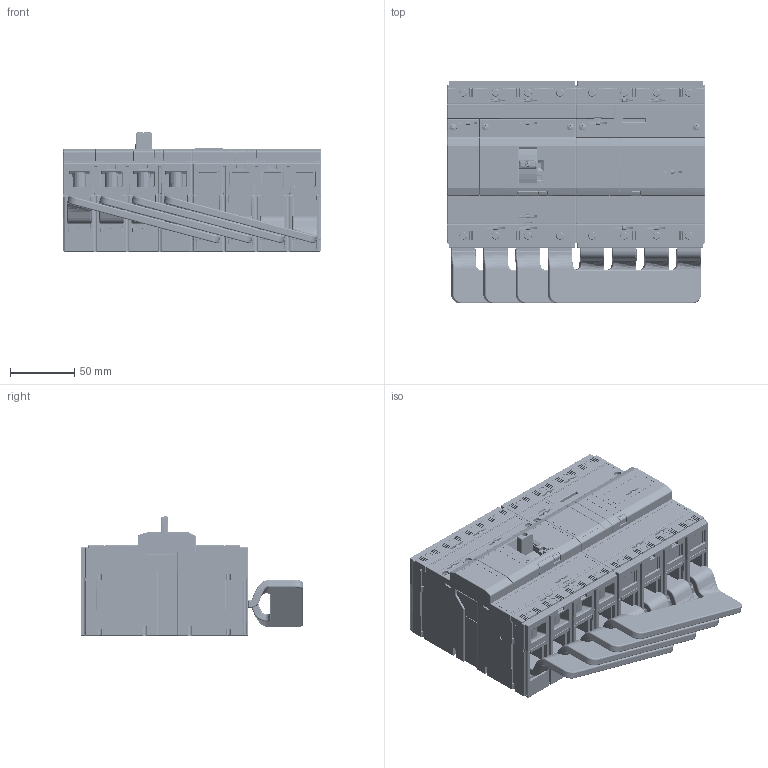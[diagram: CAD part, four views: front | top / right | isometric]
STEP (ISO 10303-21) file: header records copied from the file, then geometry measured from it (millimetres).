
FILE_DESCRIPTION (( 'STEP AP214' ), '1' );
FILE_NAME ('BC160NT405_406__RCD-BC0_P_fin2.step', '2013-06-17T09:27:09', ( 'Siemens' ), ( 'Siemens' ), 'SwSTEP 2.0', 'SolidWorks 2011', '' );
FILE_SCHEMA (( 'AUTOMOTIVE_DESIGN' ));
Length unit declared in the file: millimetre
Products named in the file (1): BC160NT405_406__RCD-BC0_P_fin2
Bounding box: 200 x 173 x 92.5 mm (x, y, z)
Volume: 1787895.3 mm3; surface area: 357721.3 mm2
Topology: 25 solids, 27 shells, 11692 faces, 31579 edges, 19967 vertices
Faces by surface type: plane 6077, cylinder 3492, bspline 1201, cone 682, torus 240
Entity records: 549424 total; most frequent: CARTESIAN_POINT 143284, ORIENTED_EDGE 62928, DIRECTION 50690, EDGE_CURVE 31464, VERTEX_POINT 19967, LINE 19830, VECTOR 19830, AXIS2_PLACEMENT_3D 15430
